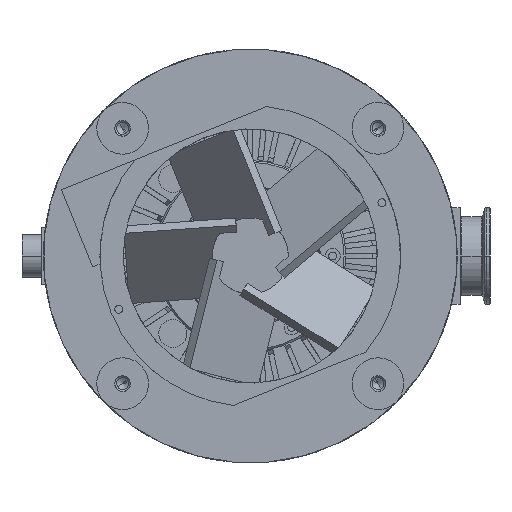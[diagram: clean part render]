
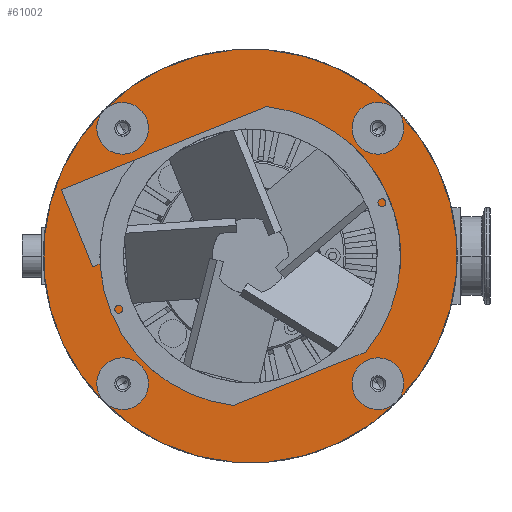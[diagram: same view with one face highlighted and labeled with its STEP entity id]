
A CAD part, front view. The second image highlights one B-rep face of the part: STEP entity #61002.
In plain terms, the highlighted planar face has unit normal (0, -1, 0) as drawn and (0, 0, 1) by its records, which use the part's own axes.
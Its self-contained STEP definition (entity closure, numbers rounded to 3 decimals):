
#691 = CIRCLE ( 'NONE', #183095, 72.5 ) ;
#1066 = DIRECTION ( 'NONE',  ( -1., 0., 0. ) ) ;
#3742 = EDGE_CURVE ( 'NONE', #94642, #25538, #19226, .T. ) ;
#4609 = VERTEX_POINT ( 'NONE', #88184 ) ;
#4851 = AXIS2_PLACEMENT_3D ( 'NONE', #132142, #36499, #148317 ) ;
#6984 = CIRCLE ( 'NONE', #80387, 72.5 ) ;
#9988 = VERTEX_POINT ( 'NONE', #154977 ) ;
#12265 = CARTESIAN_POINT ( 'NONE',  ( 0., 0., 5. ) ) ;
#17265 = AXIS2_PLACEMENT_3D ( 'NONE', #192232, #96576, #1066 ) ;
#17710 = ORIENTED_EDGE ( 'NONE', *, *, #150455, .T. ) ;
#17881 = EDGE_LOOP ( 'NONE', ( #144184, #203899 ) ) ;
#18527 = VERTEX_POINT ( 'NONE', #100159 ) ;
#19226 = CIRCLE ( 'NONE', #35227, 4.5 ) ;
#24540 = ORIENTED_EDGE ( 'NONE', *, *, #75113, .T. ) ;
#25538 = VERTEX_POINT ( 'NONE', #42597 ) ;
#27250 = CIRCLE ( 'NONE', #17265, 4.5 ) ;
#27574 = ORIENTED_EDGE ( 'NONE', *, *, #116447, .T. ) ;
#28309 = DIRECTION ( 'NONE',  ( -1., 0., 0. ) ) ;
#28394 = CARTESIAN_POINT ( 'NONE',  ( 0., 0., 5. ) ) ;
#31134 = DIRECTION ( 'NONE',  ( 0., 0., -1. ) ) ;
#33104 = CARTESIAN_POINT ( 'NONE',  ( 107.5, 0., 5. ) ) ;
#34236 = CARTESIAN_POINT ( 'NONE',  ( -4.5, 103., 5. ) ) ;
#34919 = AXIS2_PLACEMENT_3D ( 'NONE', #179218, #83640, #195311 ) ;
#35227 = AXIS2_PLACEMENT_3D ( 'NONE', #147728, #147557, #147510 ) ;
#36499 = DIRECTION ( 'NONE',  ( 0., 0., -1. ) ) ;
#37211 = AXIS2_PLACEMENT_3D ( 'NONE', #191017, #95375, #207012 ) ;
#37478 = EDGE_CURVE ( 'NONE', #81919, #159128, #107073, .T. ) ;
#37556 = VERTEX_POINT ( 'NONE', #150062 ) ;
#38964 = VERTEX_POINT ( 'NONE', #62411 ) ;
#40810 = FACE_BOUND ( 'NONE', #88215, .T. ) ;
#42597 = CARTESIAN_POINT ( 'NONE',  ( -107.5, 0., 5. ) ) ;
#43801 = DIRECTION ( 'NONE',  ( 0., 0., -1. ) ) ;
#44460 = DIRECTION ( 'NONE',  ( -1., 0., 0. ) ) ;
#46016 = CIRCLE ( 'NONE', #4851, 4.5 ) ;
#46163 = CIRCLE ( 'NONE', #77982, 4.5 ) ;
#46791 = DIRECTION ( 'NONE',  ( 0., 0., -1. ) ) ;
#48631 = VERTEX_POINT ( 'NONE', #176354 ) ;
#50007 = CARTESIAN_POINT ( 'NONE',  ( 0., 0., 5. ) ) ;
#53097 = DIRECTION ( 'NONE',  ( 1., 0., 0. ) ) ;
#53226 = CARTESIAN_POINT ( 'NONE',  ( -4.5, -103., 5. ) ) ;
#57303 = CIRCLE ( 'NONE', #199230, 4.5 ) ;
#58212 = EDGE_LOOP ( 'NONE', ( #167039, #109694 ) ) ;
#60649 = DIRECTION ( 'NONE',  ( 0., 0., -1. ) ) ;
#61002 = ADVANCED_FACE ( 'NONE', ( #168156, #88205, #178065, #125657, #83190, #40810 ), #132668, .T. ) ;
#61181 = CIRCLE ( 'NONE', #186434, 4.5 ) ;
#62411 = CARTESIAN_POINT ( 'NONE',  ( -72.5, 0., 5. ) ) ;
#63500 = AXIS2_PLACEMENT_3D ( 'NONE', #179344, #148801, #53097 ) ;
#65382 = VERTEX_POINT ( 'NONE', #33104 ) ;
#66022 = DIRECTION ( 'NONE',  ( -1., 0., 0. ) ) ;
#68500 = ORIENTED_EDGE ( 'NONE', *, *, #134775, .T. ) ;
#71956 = ORIENTED_EDGE ( 'NONE', *, *, #137622, .T. ) ;
#72318 = AXIS2_PLACEMENT_3D ( 'NONE', #50007, #161713, #66022 ) ;
#75113 = EDGE_CURVE ( 'NONE', #159128, #81919, #46163, .T. ) ;
#77982 = AXIS2_PLACEMENT_3D ( 'NONE', #139448, #43801, #155522 ) ;
#80387 = AXIS2_PLACEMENT_3D ( 'NONE', #12265, #123886, #28309 ) ;
#81919 = VERTEX_POINT ( 'NONE', #34236 ) ;
#83190 = FACE_BOUND ( 'NONE', #58212, .T. ) ;
#83640 = DIRECTION ( 'NONE',  ( 0., 0., -1. ) ) ;
#84312 = CIRCLE ( 'NONE', #72318, 118. ) ;
#85633 = EDGE_LOOP ( 'NONE', ( #153590, #104795 ) ) ;
#87237 = EDGE_CURVE ( 'NONE', #38964, #9988, #691, .T. ) ;
#88184 = CARTESIAN_POINT ( 'NONE',  ( 4.5, -103., 5. ) ) ;
#88205 = FACE_BOUND ( 'NONE', #137790, .T. ) ;
#88215 = EDGE_LOOP ( 'NONE', ( #17710, #68500 ) ) ;
#94642 = VERTEX_POINT ( 'NONE', #95765 ) ;
#95375 = DIRECTION ( 'NONE',  ( 0., 0., -1. ) ) ;
#95765 = CARTESIAN_POINT ( 'NONE',  ( -98.5, 0., 5. ) ) ;
#96576 = DIRECTION ( 'NONE',  ( 0., 0., -1. ) ) ;
#100159 = CARTESIAN_POINT ( 'NONE',  ( 118., 0., 5. ) ) ;
#104795 = ORIENTED_EDGE ( 'NONE', *, *, #115537, .T. ) ;
#107073 = CIRCLE ( 'NONE', #34919, 4.5 ) ;
#109694 = ORIENTED_EDGE ( 'NONE', *, *, #3742, .T. ) ;
#110708 = ORIENTED_EDGE ( 'NONE', *, *, #37478, .T. ) ;
#114243 = AXIS2_PLACEMENT_3D ( 'NONE', #28394, #140132, #44460 ) ;
#115537 = EDGE_CURVE ( 'NONE', #4609, #133082, #61181, .T. ) ;
#116236 = CARTESIAN_POINT ( 'NONE',  ( 4.5, 103., 5. ) ) ;
#116447 = EDGE_CURVE ( 'NONE', #48631, #18527, #167537, .T. ) ;
#123886 = DIRECTION ( 'NONE',  ( 0., 0., -1. ) ) ;
#125657 = FACE_OUTER_BOUND ( 'NONE', #163569, .T. ) ;
#126707 = CARTESIAN_POINT ( 'NONE',  ( 0., -103., 5. ) ) ;
#132142 = CARTESIAN_POINT ( 'NONE',  ( -103., 0., 5. ) ) ;
#132668 = PLANE ( 'NONE',  #63500 ) ;
#133082 = VERTEX_POINT ( 'NONE', #53226 ) ;
#134775 = EDGE_CURVE ( 'NONE', #65382, #37556, #27250, .T. ) ;
#137622 = EDGE_CURVE ( 'NONE', #18527, #48631, #84312, .T. ) ;
#137790 = EDGE_LOOP ( 'NONE', ( #110708, #24540 ) ) ;
#139448 = CARTESIAN_POINT ( 'NONE',  ( 0., 103., 5. ) ) ;
#140132 = DIRECTION ( 'NONE',  ( 0., 0., 1. ) ) ;
#142487 = CARTESIAN_POINT ( 'NONE',  ( 0., -103., 5. ) ) ;
#142912 = DIRECTION ( 'NONE',  ( -1., 0., 0. ) ) ;
#144184 = ORIENTED_EDGE ( 'NONE', *, *, #87237, .T. ) ;
#145660 = EDGE_CURVE ( 'NONE', #25538, #94642, #46016, .T. ) ;
#147510 = DIRECTION ( 'NONE',  ( -1., 0., 0. ) ) ;
#147557 = DIRECTION ( 'NONE',  ( 0., 0., -1. ) ) ;
#147728 = CARTESIAN_POINT ( 'NONE',  ( -103., 0., 5. ) ) ;
#148317 = DIRECTION ( 'NONE',  ( -1., 0., 0. ) ) ;
#148801 = DIRECTION ( 'NONE',  ( 0., 0., 1. ) ) ;
#150062 = CARTESIAN_POINT ( 'NONE',  ( 98.5, 0., 5. ) ) ;
#150455 = EDGE_CURVE ( 'NONE', #37556, #65382, #157406, .T. ) ;
#153590 = ORIENTED_EDGE ( 'NONE', *, *, #171563, .T. ) ;
#154977 = CARTESIAN_POINT ( 'NONE',  ( 72.5, 0., 5. ) ) ;
#155522 = DIRECTION ( 'NONE',  ( -1., 0., 0. ) ) ;
#156352 = CARTESIAN_POINT ( 'NONE',  ( 0., 0., 5. ) ) ;
#157406 = CIRCLE ( 'NONE', #37211, 4.5 ) ;
#158490 = DIRECTION ( 'NONE',  ( -1., 0., 0. ) ) ;
#159128 = VERTEX_POINT ( 'NONE', #116236 ) ;
#161713 = DIRECTION ( 'NONE',  ( 0., 0., 1. ) ) ;
#163569 = EDGE_LOOP ( 'NONE', ( #27574, #71956 ) ) ;
#167039 = ORIENTED_EDGE ( 'NONE', *, *, #145660, .T. ) ;
#167537 = CIRCLE ( 'NONE', #114243, 118. ) ;
#168156 = FACE_BOUND ( 'NONE', #85633, .T. ) ;
#171563 = EDGE_CURVE ( 'NONE', #133082, #4609, #57303, .T. ) ;
#172297 = DIRECTION ( 'NONE',  ( -1., 0., 0. ) ) ;
#176354 = CARTESIAN_POINT ( 'NONE',  ( -118., 0., 5. ) ) ;
#178065 = FACE_BOUND ( 'NONE', #17881, .T. ) ;
#179218 = CARTESIAN_POINT ( 'NONE',  ( 0., 103., 5. ) ) ;
#179344 = CARTESIAN_POINT ( 'NONE',  ( 0., 0., 5. ) ) ;
#183095 = AXIS2_PLACEMENT_3D ( 'NONE', #156352, #60649, #172297 ) ;
#186434 = AXIS2_PLACEMENT_3D ( 'NONE', #126707, #31134, #142912 ) ;
#191017 = CARTESIAN_POINT ( 'NONE',  ( 103., 0., 5. ) ) ;
#192232 = CARTESIAN_POINT ( 'NONE',  ( 103., 0., 5. ) ) ;
#195311 = DIRECTION ( 'NONE',  ( -1., 0., 0. ) ) ;
#199230 = AXIS2_PLACEMENT_3D ( 'NONE', #142487, #46791, #158490 ) ;
#203899 = ORIENTED_EDGE ( 'NONE', *, *, #204311, .T. ) ;
#204311 = EDGE_CURVE ( 'NONE', #9988, #38964, #6984, .T. ) ;
#207012 = DIRECTION ( 'NONE',  ( -1., 0., 0. ) ) ;
